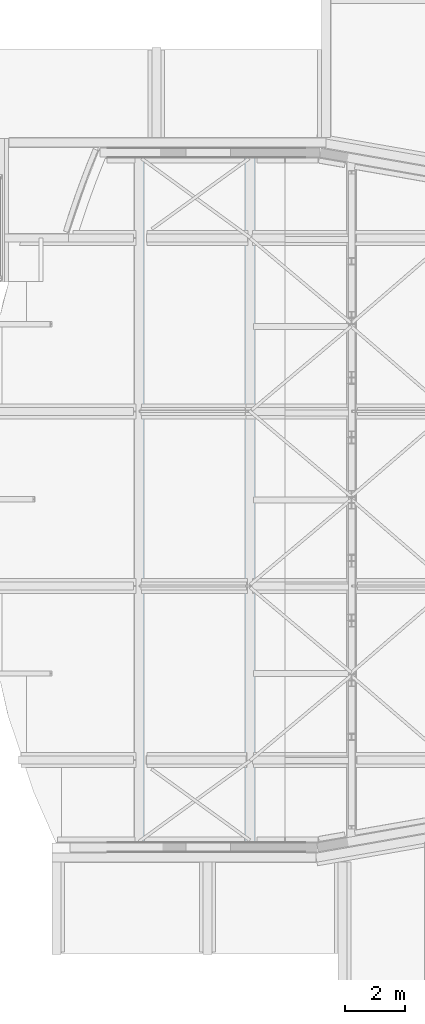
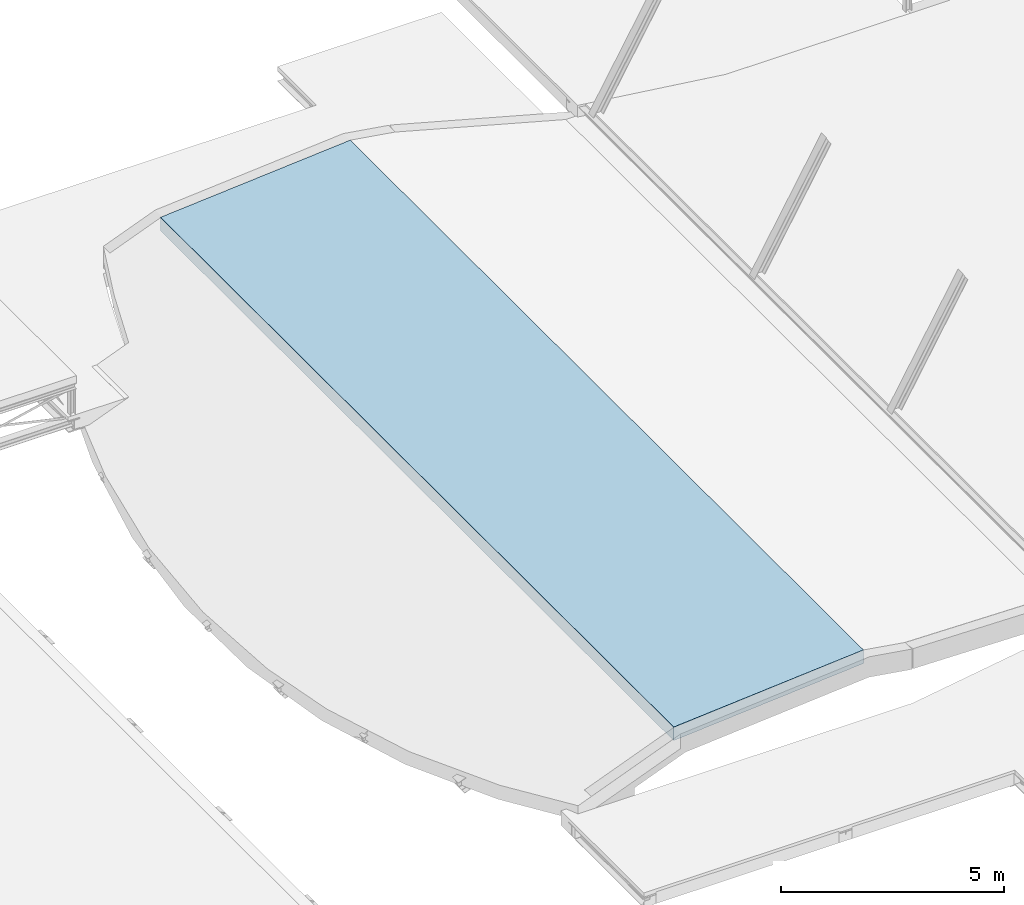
# One storey, part 46 of 50: 1 slab.
"""IFC2X3 building model written with IfcOpenShell, lengths in millimetres."""

from ifc_helpers import new_model, entity, si_unit, converted_unit, derived_unit, direction, frame, origin, place, context, subcontext, project, spatial, faceted_brep, material, type_object, element, save


model = new_model("IFC2X3")

# Units and contexts
model_context = context("Model", 3, precision=0.01, world=origin(), true_north=direction((6.12303176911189e-17, 1.0)))
body_context = subcontext(model_context, "Body", "Model", "MODEL_VIEW")
ifc_project = project(units=[si_unit("LENGTHUNIT", "METRE", prefix="MILLI"), si_unit("AREAUNIT", "SQUARE_METRE", prefix="MILLI"), si_unit("VOLUMEUNIT", "CUBIC_METRE"), converted_unit("PLANEANGLEUNIT", "DEGREE", entity("IfcRatioMeasure", 0.0174532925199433), si_unit("PLANEANGLEUNIT", "RADIAN"), dimensions=[0, 0, 0, 0, 0, 0, 0]), si_unit("MASSUNIT", "GRAM", prefix="KILO"), derived_unit("MASSDENSITYUNIT", [(si_unit("MASSUNIT", "GRAM", prefix="KILO"), 1), (si_unit("LENGTHUNIT", "METRE"), -3)]), derived_unit("MOMENTOFINERTIAUNIT", [(si_unit("LENGTHUNIT", "METRE"), 4)]), si_unit("TIMEUNIT", "SECOND"), si_unit("FREQUENCYUNIT", "HERTZ"), si_unit("THERMODYNAMICTEMPERATUREUNIT", "DEGREE_CELSIUS"), derived_unit("THERMALTRANSMITTANCEUNIT", [(si_unit("MASSUNIT", "GRAM", prefix="KILO"), 1), (si_unit("THERMODYNAMICTEMPERATUREUNIT", "KELVIN"), -1), (si_unit("TIMEUNIT", "SECOND"), -3)]), derived_unit("VOLUMETRICFLOWRATEUNIT", [(si_unit("LENGTHUNIT", "METRE"), 3), (si_unit("TIMEUNIT", "SECOND"), -1)]), si_unit("ELECTRICCURRENTUNIT", "AMPERE"), si_unit("ELECTRICVOLTAGEUNIT", "VOLT"), si_unit("POWERUNIT", "WATT"), si_unit("FORCEUNIT", "NEWTON", prefix="KILO"), si_unit("ILLUMINANCEUNIT", "LUX"), si_unit("LUMINOUSFLUXUNIT", "LUMEN"), si_unit("LUMINOUSINTENSITYUNIT", "CANDELA"), derived_unit("USERDEFINED", [(si_unit("MASSUNIT", "GRAM", prefix="KILO"), -1), (si_unit("LENGTHUNIT", "METRE"), -2), (si_unit("TIMEUNIT", "SECOND"), 3), (si_unit("LUMINOUSFLUXUNIT", "LUMEN"), 1)]), derived_unit("LINEARVELOCITYUNIT", [(si_unit("LENGTHUNIT", "METRE"), 1), (si_unit("TIMEUNIT", "SECOND"), -1)]), si_unit("PRESSUREUNIT", "PASCAL"), derived_unit("USERDEFINED", [(si_unit("LENGTHUNIT", "METRE"), -2), (si_unit("MASSUNIT", "GRAM", prefix="KILO"), 1), (si_unit("TIMEUNIT", "SECOND"), -2)]), derived_unit("LINEARFORCEUNIT", [(si_unit("MASSUNIT", "GRAM", prefix="KILO"), 1), (si_unit("LENGTHUNIT", "METRE"), 1), (si_unit("TIMEUNIT", "SECOND"), -2), (si_unit("LENGTHUNIT", "METRE"), -1)]), derived_unit("PLANARFORCEUNIT", [(si_unit("MASSUNIT", "GRAM", prefix="KILO"), 1), (si_unit("LENGTHUNIT", "METRE"), 1), (si_unit("TIMEUNIT", "SECOND"), -2), (si_unit("LENGTHUNIT", "METRE"), -2)])], contexts=[model_context])

# Site, building, storey
site_placement = place(None, origin())
site = spatial("IfcSite", under=ifc_project, at=site_placement, Name="Theater aan de Parade", CompositionType="ELEMENT")
building_placement = place(site_placement, origin())
building = spatial("IfcBuilding", under=site, at=building_placement, Name="Theater aan de Parade", CompositionType="ELEMENT")
storey_placement = place(building_placement, frame((0.0, 0.0, 15820.0)))
storey = spatial("IfcBuildingStorey", under=building, at=storey_placement, Name="04 vierde verdieping", CompositionType="ELEMENT", Elevation=15820.0)

# Slab
ifc_material = material(Name="00_PBT_MAT_beton t.p.g._C30/37")
slab_type = type_object("IfcSlabType", Name="Floor:28_PBT_FL_druklaag_d=50 (=370)_C30/37", PredefinedType="FLOOR")
slab_placement = place(storey_placement, origin())
element("IfcSlab", 1, at=slab_placement, inside=storey, type_object=slab_type, material=ifc_material, Name="Floor:28_PBT_FL_druklaag_d=50 (=370)_C30/37", ObjectType="Floor:28_PBT_FL_druklaag_d=50 (=370)_C30/37", PredefinedType="FLOOR", context=body_context, shape_type="Brep", body=[
    faceted_brep([(45610.0, 43910.0, 1308.8258162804), (45798.3479531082, 43910.0, 1323.88583608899), (45780.0, 43860.0, 1322.4187612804), (45780.0, 35539.5120085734, 1322.41876651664), (45780.0, 35239.5120085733, 1322.4187612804), (45780.0, 29687.9879914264, 1322.41876651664), (45610.0, 20930.0, 1308.82581628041), (45798.3479530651, 43884.3928946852, 1323.88583608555), (47469.7868283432, 43884.4407655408, 1457.53158139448), (49165.0, 43860.0, 1593.07828901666), (49147.6583363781, 43884.4884685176, 1591.69167036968), (49147.658336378, 43910.0, 1591.69167036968), (49505.0, 43860.0, 1620.26417378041), (50514.5655519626, 43910.0, 1700.98752096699), (50514.5655519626, 43860.0, 1700.98752096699), (49165.0, 41348.5633673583, 1593.07828378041), (49165.0, 41048.5633673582, 1593.07828901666), (49165.0, 35539.5120085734, 1593.07828378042), (49505.0, 29687.9879914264, 1620.26417901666), (49165.0, 35239.5120085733, 1593.07828901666), (49165.0, 29687.9879914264, 1593.07828378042), (49165.0, 29387.9879914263, 1593.07828901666), (49505.0, 29387.9879914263, 1620.26417378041), (50514.5655519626, 29387.9879914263, 1700.987520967), (50514.5655519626, 29687.9879914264, 1700.987520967), (49165.0, 23858.9366326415, 1593.07828378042), (49505.0, 20980.0, 1620.26417901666), (49165.0, 23558.9366326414, 1593.07828901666), (49165.0, 20980.0, 1593.07828378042), (50514.5655519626, 20930.0, 1700.987520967), (50514.5655519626, 20980.0, 1700.987520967), (45780.0, 29387.9879914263, 1322.4187612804), (45780.0, 20980.0, 1322.41876651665), (45881.5087039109, 23558.9366326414, 1330.53524498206), (45881.5087039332, 23858.9366326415, 1330.53524498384), (45891.8548351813, 41048.5633673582, 1331.36250611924), (45891.8548352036, 41348.5633673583, 1331.36250612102), (50471.4211098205, 23558.9366326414, 1697.53775608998), (50471.4177170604, 23858.9366326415, 1697.53748480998), (50514.5655519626, 23858.9366326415, 1700.987520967), (50514.5655519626, 23558.9366326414, 1700.987520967), (50471.4211098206, 35239.5120085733, 1697.53775608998), (50471.4177170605, 35539.5120085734, 1697.53748480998), (50514.5655519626, 35539.5120085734, 1700.987520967), (50514.5655519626, 35239.5120085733, 1700.987520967), (50471.4211098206, 41048.5633673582, 1697.53775608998), (50471.4177170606, 41348.5633673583, 1697.53748480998), (50514.5655519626, 41348.5633673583, 1700.98752096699), (50514.5655519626, 41048.5633673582, 1700.987520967), (50514.5655519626, 43860.0, 2022.00965329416), (50514.5655519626, 43910.0, 2072.16840843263), (50514.5655519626, 20930.0, 2072.16840843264), (50514.5655519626, 20980.0, 2022.00965329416), (50514.5655519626, 29387.9879914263, 2022.00965329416), (50514.5655519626, 29687.9879914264, 2022.00965329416), (50514.5655519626, 23858.9366326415, 2019.75551364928), (50514.5655519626, 23558.9366326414, 2019.75551364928), (50514.5655519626, 35539.5120085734, 2019.75551364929), (50514.5655519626, 35239.5120085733, 2019.75551364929), (50514.5655519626, 41348.5633673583, 2019.7555136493), (50514.5655519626, 41048.5633673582, 2019.7555136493), (45866.3581307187, 41048.5633673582, 1650.34596020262), (49165.0, 41048.5633673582, 1914.10041610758), (49165.0, 35539.5120085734, 1914.10041610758), (45780.0, 35539.5120085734, 1643.44089360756), (45780.0, 43860.0, 1643.44089360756), (49165.0, 43860.0, 1914.10041610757), (49165.0, 41348.5633673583, 1914.10041610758), (45866.3581293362, 41348.5633673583, 1650.34596009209), (45856.0119980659, 23858.9366326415, 1649.51869895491), (45856.0119994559, 23558.9366326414, 1649.51869906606), (49165.0, 23558.9366326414, 1914.10041610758), (49165.0, 20980.0, 1914.10041610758), (45780.0, 20980.0, 1643.44089360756), (45780.0, 29387.9879914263, 1643.44089360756), (49165.0, 29387.9879914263, 1914.10041610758), (49165.0, 23858.9366326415, 1914.10041610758), (45780.0, 29687.9879914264, 1643.44089360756), (45780.0, 35239.5120085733, 1643.44089360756), (49165.0, 35239.5120085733, 1914.10041610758), (49165.0, 29687.9879914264, 1914.10041610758), (50505.1080046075, 41048.5633673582, 2021.25344199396), (50505.1080046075, 41348.5633673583, 2021.25344199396), (50505.1080046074, 35539.5120085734, 2021.25344199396), (50353.8993735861, 35539.5120085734, 2009.16302667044), (50353.8993735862, 41048.5633673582, 2009.16302667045), (50353.8993735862, 41348.5633673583, 2009.16302667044), (49505.0, 43860.0, 1941.28630610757), (49505.0, 29687.9879914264, 1941.28630610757), (50505.1080046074, 35239.5120085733, 2021.25344199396), (50353.8993735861, 35239.5120085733, 2009.16302667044), (50505.1080046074, 23858.9366326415, 2021.25344199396), (50505.1080046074, 23558.9366326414, 2021.25344199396), (50353.899373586, 23558.9366326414, 2009.16302667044), (49505.0, 20980.0, 1941.28630610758), (50353.899373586, 23858.9366326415, 2009.16302667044), (49505.0, 29387.9879914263, 1941.28630610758), (45610.0, 43910.0, 1680.00670374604), (45610.0, 20930.0, 1680.00670374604), (49133.717812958, 43910.0, 1766.09836971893), (45784.4001471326, 43910.0, 1498.38364582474), (49147.186743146, 43888.5644222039, 1597.59166541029), (49146.9692042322, 43889.1208421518, 1600.31324499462), (49146.6254871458, 43890.0, 1604.61341083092), (49134.4349059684, 43890.0, 1757.12698311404), (49133.927844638, 43892.6360389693, 1763.47071141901), (49133.717812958, 43899.0, 1766.09836971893), (49147.3694300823, 43886.9854696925, 1595.30611147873), (45784.4001471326, 43899.0, 1498.38364582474), (45784.6101788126, 43892.6360389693, 1495.75598752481), (45785.117240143, 43890.0, 1489.41225921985), (45797.3078213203, 43890.0, 1336.89868693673), (45797.5908857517, 43889.2691404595, 1333.35733259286), (45797.873950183, 43888.538280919, 1329.815978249), (45798.0601850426, 43886.9095664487, 1327.48603652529), (50308.6265829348, 23858.9366326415, 1723.3218761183), (50308.7830173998, 23858.9366326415, 1724.30956445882), (50456.9362684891, 23858.9366326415, 1700.84439470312), (50457.0927029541, 23858.9366326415, 1701.83208304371), (50308.9394518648, 23858.9366326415, 1725.29725279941), (50308.9394518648, 23558.9366326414, 1725.29725279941), (50407.7082859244, 23558.9366326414, 1709.65380629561), (50407.5518514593, 23558.9366326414, 1708.66611795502), (50308.7830173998, 23558.9366326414, 1724.30956445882), (50308.6265829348, 23558.9366326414, 1723.3218761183), (50308.6265829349, 35539.5120085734, 1723.3218761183), (50308.7830173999, 35539.5120085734, 1724.30956445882), (50456.9362684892, 35539.5120085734, 1700.84439470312), (50457.0927029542, 35539.5120085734, 1701.83208304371), (50308.9394518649, 35539.5120085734, 1725.29725279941), (50308.9394518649, 35239.5120085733, 1725.29725279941), (50407.7082859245, 35239.5120085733, 1709.65380629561), (50407.5518514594, 35239.5120085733, 1708.66611795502), (50308.7830173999, 35239.5120085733, 1724.30956445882), (50308.6265829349, 35239.5120085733, 1723.3218761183), (50308.6265829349, 41348.5633673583, 1723.3218761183), (50308.7830173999, 41348.5633673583, 1724.30956445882), (50456.9362684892, 41348.5633673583, 1700.84439470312), (50457.0927029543, 41348.5633673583, 1701.83208304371), (50308.939451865, 41348.5633673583, 1725.29725279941), (50308.939451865, 41048.5633673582, 1725.29725279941), (50407.7082859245, 41048.5633673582, 1709.65380629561), (50407.5518514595, 41048.5633673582, 1708.66611795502), (50308.7830173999, 41048.5633673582, 1724.30956445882), (50308.6265829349, 41048.5633673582, 1723.3218761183), (50308.7830173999, 40943.5633673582, 1724.30956445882), (50308.939451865, 40943.5633673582, 1725.29725279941), (50308.939451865, 41453.5633673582, 1725.29725279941), (50308.7830173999, 41453.5633673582, 1724.30956445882), (50308.7830173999, 35134.5120085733, 1724.30956445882), (50308.9394518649, 35134.5120085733, 1725.29725279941), (50308.9394518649, 35644.5120085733, 1725.29725279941), (50308.7830173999, 35644.5120085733, 1724.30956445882), (50308.7830173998, 23453.9366326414, 1724.30956445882), (50308.9394518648, 23453.9366326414, 1725.29725279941), (50308.9394518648, 23963.9366326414, 1725.29725279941), (50308.7830173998, 23963.9366326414, 1724.30956445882), (50457.0927029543, 41453.5633673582, 1701.83208304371), (50407.7082859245, 40943.5633673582, 1709.65380629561), (50457.0927029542, 35644.5120085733, 1701.83208304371), (50407.7082859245, 35134.5120085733, 1709.65380629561), (50457.0927029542, 23963.9366326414, 1701.83208304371), (50407.7082859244, 23453.9366326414, 1709.65380629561), (50456.9362684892, 41453.5633673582, 1700.84439470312), (50407.5518514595, 40943.5633673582, 1708.66611795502), (50456.9362684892, 35644.5120085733, 1700.84439470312), (50407.5518514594, 35134.5120085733, 1708.66611795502), (50456.9362684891, 23963.9366326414, 1700.84439470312), (50407.5518514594, 23453.9366326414, 1708.66611795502)], [[[0, 1, 2]], [[2, 3, 0]], [[0, 3, 4]], [[0, 4, 5]], [[6, 0, 5]], [[7, 2, 1]], [[2, 7, 8]], [[9, 2, 8]], [[9, 8, 10]], [[10, 11, 9]], [[9, 11, 12]], [[12, 11, 13]], [[13, 14, 12]], [[12, 15, 9]], [[15, 12, 16]], [[16, 12, 17]], [[18, 17, 12]], [[17, 18, 19]], [[18, 20, 19]], [[18, 21, 20]], [[21, 18, 22]], [[22, 18, 23]], [[24, 23, 18]], [[21, 22, 25]], [[25, 22, 26]], [[25, 26, 27]], [[26, 28, 27]], [[26, 29, 28]], [[26, 30, 29]], [[28, 29, 6]], [[6, 5, 31]], [[6, 32, 28]], [[32, 6, 31]], [[21, 31, 5]], [[21, 5, 20]], [[33, 25, 27]], [[25, 33, 34]], [[17, 19, 4]], [[3, 17, 4]], [[16, 35, 15]], [[35, 36, 15]], [[37, 38, 39, 40]], [[41, 42, 43, 44]], [[45, 46, 47, 48]], [[49, 14, 13, 50, 51, 29, 30, 52, 53, 23, 24, 54]], [[40, 39, 55, 56]], [[44, 43, 57, 58]], [[48, 47, 59, 60]], [[61, 62, 63, 64, 65, 66, 67, 68]], [[69, 70, 71, 72, 73, 74, 75, 76]], [[77, 78, 79, 80]], [[61, 62, 63]], [[63, 64, 61]], [[65, 61, 64]], [[61, 65, 68]], [[66, 68, 65]], [[68, 66, 67]], [[69, 75, 76]], [[75, 69, 74]], [[73, 74, 69]], [[69, 70, 73]], [[72, 73, 70]], [[71, 72, 70]], [[77, 79, 80]], [[79, 77, 78]], [[81, 82, 49]], [[83, 81, 49]], [[84, 81, 83]], [[85, 81, 84]], [[86, 49, 82]], [[85, 87, 86]], [[49, 86, 87]], [[84, 87, 85]], [[87, 84, 88]], [[49, 54, 83]], [[89, 83, 54]], [[90, 89, 54]], [[54, 88, 90]], [[88, 84, 90]], [[61, 62, 63]], [[63, 64, 61]], [[65, 61, 64]], [[61, 65, 68]], [[66, 68, 65]], [[68, 66, 67]], [[69, 75, 76]], [[75, 69, 74]], [[73, 74, 69]], [[69, 70, 73]], [[72, 73, 70]], [[71, 72, 70]], [[77, 79, 80]], [[79, 77, 78]], [[81, 82, 49]], [[83, 81, 49]], [[84, 81, 83]], [[85, 81, 84]], [[86, 49, 82]], [[85, 87, 86]], [[49, 86, 87]], [[84, 87, 85]], [[87, 84, 88]], [[49, 54, 83]], [[89, 83, 54]], [[90, 89, 54]], [[54, 88, 90]], [[88, 84, 90]], [[52, 91, 53]], [[91, 52, 92]], [[93, 92, 52]], [[52, 94, 93]], [[95, 93, 94]], [[94, 96, 95]], [[53, 95, 96]], [[95, 53, 91]], [[64, 3, 2]], [[2, 65, 64]], [[31, 74, 73]], [[4, 78, 77]], [[66, 9, 15]], [[15, 67, 66]], [[20, 80, 79]], [[28, 72, 71]], [[25, 76, 75]], [[17, 63, 62]], [[79, 19, 20]], [[75, 21, 25]], [[71, 27, 28]], [[73, 32, 31]], [[88, 18, 12]], [[12, 87, 88]], [[22, 96, 94]], [[51, 50, 97, 98]], [[98, 6, 29, 51]], [[0, 6, 98, 97]], [[0, 97, 50, 13, 11, 99, 100, 1]], [[73, 72, 28, 32]], [[94, 52, 30, 26]], [[77, 5, 4]], [[65, 2, 9, 66]], [[87, 12, 14, 49]], [[62, 16, 17]], [[11, 101, 102, 103, 104, 105, 106, 99]], [[11, 10, 107]], [[1, 100, 108, 109, 110, 111, 112, 113, 114]], [[104, 103, 111, 110]], [[113, 107, 114]], [[101, 107, 113]], [[8, 114, 107]], [[112, 102, 113]], [[107, 10, 8]], [[113, 102, 101]], [[112, 111, 103]], [[102, 112, 103]], [[8, 7, 114]], [[99, 106, 108, 100]], [[104, 110, 109, 105]], [[109, 108, 106, 105]], [[94, 26, 22]], [[60, 59, 82, 81]], [[58, 57, 83, 89]], [[56, 55, 91, 92]], [[34, 33, 70]], [[70, 69, 34]], [[76, 25, 34, 69]], [[38, 115, 116, 117, 118, 119, 95, 91, 55, 39]], [[27, 71, 70, 33]], [[56, 92, 93, 120, 121, 122, 123, 124, 37, 40]], [[80, 20, 5, 77]], [[54, 24, 18, 88]], [[21, 75, 74, 31]], [[23, 53, 96, 22]], [[63, 17, 3, 64]], [[42, 125, 126, 127, 128, 129, 84, 83, 57, 43]], [[19, 79, 78, 4]], [[58, 89, 90, 130, 131, 132, 133, 134, 41, 44]], [[36, 35, 61]], [[61, 68, 36]], [[67, 15, 36, 68]], [[46, 135, 136, 137, 138, 139, 86, 82, 59, 47]], [[16, 62, 61, 35]], [[60, 81, 85, 140, 141, 142, 143, 144, 45, 48]], [[143, 145, 146, 140, 85, 86, 139, 147, 148, 136, 135, 144]], [[133, 149, 150, 130, 90, 84, 129, 151, 152, 126, 125, 134]], [[123, 153, 154, 120, 93, 95, 119, 155, 156, 116, 115, 124]], [[46, 45, 135]], [[144, 135, 45]], [[134, 125, 41]], [[124, 115, 37]], [[139, 138, 157, 147]], [[158, 141, 140, 146]], [[129, 128, 159, 151]], [[160, 131, 130, 150]], [[119, 118, 161, 155]], [[162, 121, 120, 154]], [[148, 163, 137, 136]], [[145, 143, 142, 164]], [[152, 165, 127, 126]], [[149, 133, 132, 166]], [[156, 167, 117, 116]], [[153, 123, 122, 168]], [[157, 138, 137, 163]], [[159, 128, 127, 165]], [[161, 118, 117, 167]], [[147, 157, 163, 148]], [[158, 146, 145, 164]], [[141, 158, 164, 142]], [[131, 160, 166, 132]], [[121, 162, 168, 122]], [[42, 41, 125]], [[151, 159, 165, 152]], [[160, 150, 149, 166]], [[38, 37, 115]], [[155, 161, 167, 156]], [[162, 154, 153, 168]], [[11, 107, 101]], [[1, 114, 7]]]),
])

save(model, "model.ifc")
